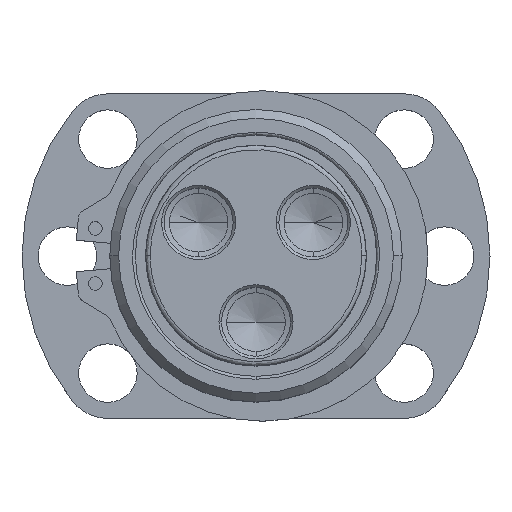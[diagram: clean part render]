
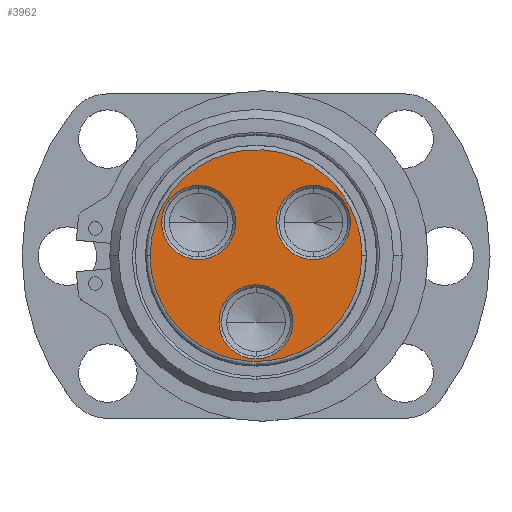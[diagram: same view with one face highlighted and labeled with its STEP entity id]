
A CAD part, top view. The second image highlights one B-rep face of the part: STEP entity #3962.
In plain terms, the highlighted planar face has unit normal (0, 0, 1).
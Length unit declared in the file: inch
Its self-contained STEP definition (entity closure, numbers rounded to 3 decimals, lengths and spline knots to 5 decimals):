
#9 = DIRECTION ( 'NONE',  ( 0., 0., -1. ) ) ;
#22 = VERTEX_POINT ( 'NONE', #3872 ) ;
#27 = CARTESIAN_POINT ( 'NONE',  ( -0.85522, 0.3, 0. ) ) ;
#91 =( BOUNDED_CURVE ( )  B_SPLINE_CURVE ( 3, ( #3322, #4093, #4459, #4524 ),
 .UNSPECIFIED., .F., .T. ) 
 B_SPLINE_CURVE_WITH_KNOTS ( ( 4, 4 ),
 ( 0., 1. ),
 .UNSPECIFIED. ) 
 CURVE ( )  GEOMETRIC_REPRESENTATION_ITEM ( )  RATIONAL_B_SPLINE_CURVE ( ( 1., 0.333, 0.333, 1. ) ) 
 REPRESENTATION_ITEM ( '' )  );
#138 = DIRECTION ( 'NONE',  ( 1., 0., 0. ) ) ;
#161 = AXIS2_PLACEMENT_3D ( 'NONE', #3069, #1562, #1161 ) ;
#166 = ORIENTED_EDGE ( 'NONE', *, *, #3894, .T. ) ;
#254 = EDGE_CURVE ( 'NONE', #22, #3877, #2690, .T. ) ;
#325 = DIRECTION ( 'NONE',  ( 0., 0., -1. ) ) ;
#369 = CIRCLE ( 'NONE', #3606, 0.3356 ) ;
#670 = CARTESIAN_POINT ( 'NONE',  ( 0.18402, 0.3, 0. ) ) ;
#746 = DIRECTION ( 'NONE',  ( 1., 0., 0. ) ) ;
#796 = CARTESIAN_POINT ( 'NONE',  ( 0., -0.6, 0. ) ) ;
#1010 = DIRECTION ( 'NONE',  ( 1., 0., 0. ) ) ;
#1062 = CARTESIAN_POINT ( 'NONE',  ( -0.959, -1.918, 0. ) ) ;
#1107 = ORIENTED_EDGE ( 'NONE', *, *, #4611, .T. ) ;
#1161 = DIRECTION ( 'NONE',  ( 1., 0., 0. ) ) ;
#1180 = AXIS2_PLACEMENT_3D ( 'NONE', #4332, #9, #3140 ) ;
#1183 = ORIENTED_EDGE ( 'NONE', *, *, #4503, .T. ) ;
#1316 = EDGE_LOOP ( 'NONE', ( #1183, #4824 ) ) ;
#1327 = DIRECTION ( 'NONE',  ( 0., 0., 1. ) ) ;
#1354 = ORIENTED_EDGE ( 'NONE', *, *, #3283, .F. ) ;
#1384 = CARTESIAN_POINT ( 'NONE',  ( -0.959, 0., 0. ) ) ;
#1394 = CIRCLE ( 'NONE', #3706, 0.3356 ) ;
#1419 = FACE_OUTER_BOUND ( 'NONE', #4073, .T. ) ;
#1433 = CARTESIAN_POINT ( 'NONE',  ( -0.3356, -0.6, 0. ) ) ;
#1445 = EDGE_LOOP ( 'NONE', ( #4354, #166 ) ) ;
#1562 = DIRECTION ( 'NONE',  ( 0., 0., -1. ) ) ;
#1691 = DIRECTION ( 'NONE',  ( 1., 0., 0. ) ) ;
#1863 = VERTEX_POINT ( 'NONE', #2878 ) ;
#2044 = FACE_BOUND ( 'NONE', #1445, .T. ) ;
#2050 = AXIS2_PLACEMENT_3D ( 'NONE', #796, #325, #746 ) ;
#2144 =( BOUNDED_CURVE ( )  B_SPLINE_CURVE ( 3, ( #2600, #4124, #1062, #3034 ),
 .UNSPECIFIED., .F., .F. ) 
 B_SPLINE_CURVE_WITH_KNOTS ( ( 4, 4 ),
 ( 0., 1. ),
 .UNSPECIFIED. ) 
 CURVE ( )  GEOMETRIC_REPRESENTATION_ITEM ( )  RATIONAL_B_SPLINE_CURVE ( ( 1., 0.333, 0.333, 1. ) ) 
 REPRESENTATION_ITEM ( '' )  );
#2383 = VERTEX_POINT ( 'NONE', #27 ) ;
#2387 = AXIS2_PLACEMENT_3D ( 'NONE', #2957, #1327, #4868 ) ;
#2520 = DIRECTION ( 'NONE',  ( 0., 0., -1. ) ) ;
#2561 = VERTEX_POINT ( 'NONE', #2943 ) ;
#2600 = CARTESIAN_POINT ( 'NONE',  ( 0.959, 0., 0. ) ) ;
#2690 = CIRCLE ( 'NONE', #3073, 0.3356 ) ;
#2840 = DIRECTION ( 'NONE',  ( 0., 0., -1. ) ) ;
#2878 = CARTESIAN_POINT ( 'NONE',  ( 0.3356, -0.6, 0. ) ) ;
#2943 = CARTESIAN_POINT ( 'NONE',  ( -0.18402, 0.3, 0. ) ) ;
#2946 = EDGE_CURVE ( 'NONE', #5081, #1863, #5058, .T. ) ;
#2957 = CARTESIAN_POINT ( 'NONE',  ( 0., 0., 0. ) ) ;
#3034 = CARTESIAN_POINT ( 'NONE',  ( -0.959, 0., 0. ) ) ;
#3069 = CARTESIAN_POINT ( 'NONE',  ( 0.51962, 0.3, 0. ) ) ;
#3073 = AXIS2_PLACEMENT_3D ( 'NONE', #4860, #2520, #138 ) ;
#3140 = DIRECTION ( 'NONE',  ( 1., 0., 0. ) ) ;
#3143 = CARTESIAN_POINT ( 'NONE',  ( 0.959, 0., 0. ) ) ;
#3259 = VERTEX_POINT ( 'NONE', #1384 ) ;
#3266 = EDGE_LOOP ( 'NONE', ( #5006, #1107 ) ) ;
#3283 = EDGE_CURVE ( 'NONE', #3916, #3259, #2144, .T. ) ;
#3322 = CARTESIAN_POINT ( 'NONE',  ( -0.959, 0., 0. ) ) ;
#3583 = EDGE_CURVE ( 'NONE', #3259, #3916, #91, .T. ) ;
#3606 = AXIS2_PLACEMENT_3D ( 'NONE', #4153, #3771, #1010 ) ;
#3660 = CIRCLE ( 'NONE', #161, 0.3356 ) ;
#3706 = AXIS2_PLACEMENT_3D ( 'NONE', #4417, #2840, #1691 ) ;
#3771 = DIRECTION ( 'NONE',  ( 0., 0., -1. ) ) ;
#3872 = CARTESIAN_POINT ( 'NONE',  ( 0.85522, 0.3, 0. ) ) ;
#3877 = VERTEX_POINT ( 'NONE', #670 ) ;
#3880 = CIRCLE ( 'NONE', #1180, 0.3356 ) ;
#3894 = EDGE_CURVE ( 'NONE', #3877, #22, #3660, .T. ) ;
#3916 = VERTEX_POINT ( 'NONE', #3143 ) ;
#3962 = ADVANCED_FACE ( 'NONE', ( #1419, #4146, #2044, #4743 ), #4138, .T. ) ;
#4065 = EDGE_CURVE ( 'NONE', #2561, #2383, #369, .T. ) ;
#4073 = EDGE_LOOP ( 'NONE', ( #4106, #1354 ) ) ;
#4093 = CARTESIAN_POINT ( 'NONE',  ( -0.959, 1.918, 0. ) ) ;
#4106 = ORIENTED_EDGE ( 'NONE', *, *, #3583, .F. ) ;
#4124 = CARTESIAN_POINT ( 'NONE',  ( 0.959, -1.918, 0. ) ) ;
#4138 = PLANE ( 'NONE',  #2387 ) ;
#4146 = FACE_BOUND ( 'NONE', #1316, .T. ) ;
#4153 = CARTESIAN_POINT ( 'NONE',  ( -0.51962, 0.3, 0. ) ) ;
#4332 = CARTESIAN_POINT ( 'NONE',  ( 0., -0.6, 0. ) ) ;
#4354 = ORIENTED_EDGE ( 'NONE', *, *, #254, .T. ) ;
#4417 = CARTESIAN_POINT ( 'NONE',  ( -0.51962, 0.3, 0. ) ) ;
#4459 = CARTESIAN_POINT ( 'NONE',  ( 0.959, 1.918, 0. ) ) ;
#4503 = EDGE_CURVE ( 'NONE', #1863, #5081, #3880, .T. ) ;
#4524 = CARTESIAN_POINT ( 'NONE',  ( 0.959, 0., 0. ) ) ;
#4611 = EDGE_CURVE ( 'NONE', #2383, #2561, #1394, .T. ) ;
#4743 = FACE_BOUND ( 'NONE', #3266, .T. ) ;
#4824 = ORIENTED_EDGE ( 'NONE', *, *, #2946, .T. ) ;
#4860 = CARTESIAN_POINT ( 'NONE',  ( 0.51962, 0.3, 0. ) ) ;
#4868 = DIRECTION ( 'NONE',  ( 1., 0., 0. ) ) ;
#5006 = ORIENTED_EDGE ( 'NONE', *, *, #4065, .T. ) ;
#5058 = CIRCLE ( 'NONE', #2050, 0.3356 ) ;
#5081 = VERTEX_POINT ( 'NONE', #1433 ) ;
